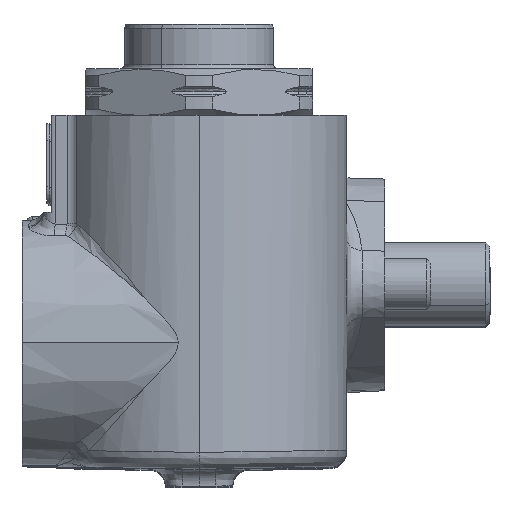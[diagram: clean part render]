
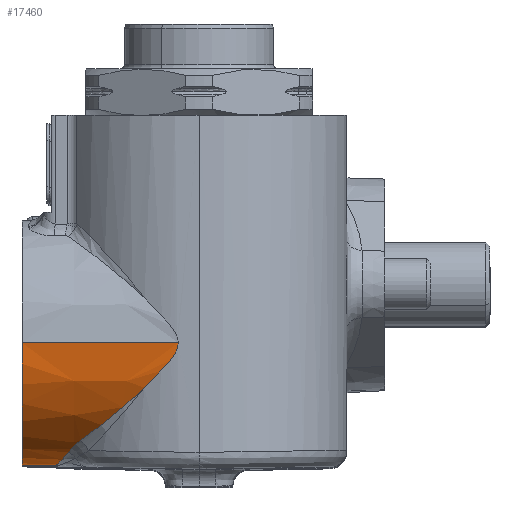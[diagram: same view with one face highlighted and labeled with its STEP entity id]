
A CAD part, top view. The second image highlights one B-rep face of the part: STEP entity #17460.
In plain terms, the highlighted conical face has half-angle 1 degrees and reference radius 14.5 mm.
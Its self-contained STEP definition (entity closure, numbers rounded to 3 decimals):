
#521 = CARTESIAN_POINT ( 'NONE',  ( -1.754, -13.532, 69.72 ) ) ;
#1226 = DIRECTION ( 'NONE',  ( -1., 0.017, 0. ) ) ;
#1581 = B_SPLINE_CURVE_WITH_KNOTS ( 'NONE', 3,
 ( #28945, #31930, #39029, #19320, #28740, #6372, #13280, #521, #26426, #10343 ),
 .UNSPECIFIED., .F., .F.,
 ( 4, 2, 2, 2, 4 ),
 ( 0., 0.003, 0.006, 0.008, 0.011 ),
 .UNSPECIFIED. ) ;
#2416 = CARTESIAN_POINT ( 'NONE',  ( 1.093, -10.752, 70.803 ) ) ;
#3167 = EDGE_CURVE ( 'NONE', #16826, #37644, #17187, .T. ) ;
#3207 = ORIENTED_EDGE ( 'NONE', *, *, #8746, .T. ) ;
#3675 = CONICAL_SURFACE ( 'NONE', #37088, 14.5, 0.017 ) ;
#4286 = EDGE_CURVE ( 'NONE', #10640, #32117, #38312, .T. ) ;
#5107 = CARTESIAN_POINT ( 'NONE',  ( -15., -7., 56.5 ) ) ;
#5164 = CARTESIAN_POINT ( 'NONE',  ( -11.01, -21.534, 57.672 ) ) ;
#5554 = CARTESIAN_POINT ( 'NONE',  ( 2.228, -9.501, 71.09 ) ) ;
#5634 = EDGE_CURVE ( 'NONE', #10640, #25502, #34749, .T. ) ;
#6051 = EDGE_CURVE ( 'NONE', #24693, #32117, #29866, .T. ) ;
#6212 = AXIS2_PLACEMENT_3D ( 'NONE', #6754, #29347, #38993 ) ;
#6372 = CARTESIAN_POINT ( 'NONE',  ( -3.695, -15.195, 68.718 ) ) ;
#6572 = CARTESIAN_POINT ( 'NONE',  ( -8.055, -18.576, 65.432 ) ) ;
#6725 = ORIENTED_EDGE ( 'NONE', *, *, #5634, .F. ) ;
#6754 = CARTESIAN_POINT ( 'NONE',  ( -15., -7., 56.5 ) ) ;
#8259 = CARTESIAN_POINT ( 'NONE',  ( 3.519, -7., 71.323 ) ) ;
#8284 = CARTESIAN_POINT ( 'NONE',  ( -11.103, -21.568, 57.088 ) ) ;
#8287 = VERTEX_POINT ( 'NONE', #17582 ) ;
#8746 = EDGE_CURVE ( 'NONE', #24693, #16826, #30238, .T. ) ;
#9698 = CARTESIAN_POINT ( 'NONE',  ( -8.672, -19.06, 64.76 ) ) ;
#10341 = ORIENTED_EDGE ( 'NONE', *, *, #4286, .T. ) ;
#10343 = CARTESIAN_POINT ( 'NONE',  ( -0.474, -12.326, 70.259 ) ) ;
#10640 = VERTEX_POINT ( 'NONE', #14819 ) ;
#11259 = CARTESIAN_POINT ( 'NONE',  ( -10.798, -21.398, 58.826 ) ) ;
#12012 = CARTESIAN_POINT ( 'NONE',  ( -9.52, -19.989, 63.157 ) ) ;
#12039 = CARTESIAN_POINT ( 'NONE',  ( 1.48, -10.346, 70.91 ) ) ;
#12238 = CARTESIAN_POINT ( 'NONE',  ( 0.313, -11.549, 70.555 ) ) ;
#12410 = DIRECTION ( 'NONE',  ( 1., 0., 0. ) ) ;
#13092 = VECTOR ( 'NONE', #1226, 1000. ) ;
#13280 = CARTESIAN_POINT ( 'NONE',  ( -3.048, -14.656, 69.076 ) ) ;
#13364 = CARTESIAN_POINT ( 'NONE',  ( -17., -21.465, 56.5 ) ) ;
#14254 = EDGE_CURVE ( 'NONE', #25502, #8287, #35556, .T. ) ;
#14707 = FACE_OUTER_BOUND ( 'NONE', #40782, .T. ) ;
#14759 = CARTESIAN_POINT ( 'NONE',  ( -10.236, -20.861, 61.068 ) ) ;
#14819 = CARTESIAN_POINT ( 'NONE',  ( -15., -7., 71. ) ) ;
#14821 = CARTESIAN_POINT ( 'NONE',  ( -11.198, -21.566, 56.5 ) ) ;
#15272 = EDGE_CURVE ( 'NONE', #37644, #8287, #1581, .T. ) ;
#15302 = CARTESIAN_POINT ( 'NONE',  ( -15., -7., 71. ) ) ;
#16826 = VERTEX_POINT ( 'NONE', #16996 ) ;
#16996 = CARTESIAN_POINT ( 'NONE',  ( -9.52, -19.989, 63.157 ) ) ;
#17025 = ORIENTED_EDGE ( 'NONE', *, *, #3167, .T. ) ;
#17119 = CARTESIAN_POINT ( 'NONE',  ( -9.704, -20.245, 62.651 ) ) ;
#17187 = B_SPLINE_CURVE_WITH_KNOTS ( 'NONE', 3,
 ( #12012, #31909, #18474, #9698, #37541, #6572 ),
 .UNSPECIFIED., .F., .F.,
 ( 4, 2, 4 ),
 ( 0., 0.002, 0.003 ),
 .UNSPECIFIED. ) ;
#17460 = ADVANCED_FACE ( 'NONE', ( #14707 ), #3675, .T. ) ;
#17582 = CARTESIAN_POINT ( 'NONE',  ( -0.474, -12.326, 70.259 ) ) ;
#17890 = CARTESIAN_POINT ( 'NONE',  ( 3.225, -8.108, 71.279 ) ) ;
#18474 = CARTESIAN_POINT ( 'NONE',  ( -9.159, -19.535, 64.002 ) ) ;
#19320 = CARTESIAN_POINT ( 'NONE',  ( -5.619, -16.739, 67.483 ) ) ;
#20846 = CARTESIAN_POINT ( 'NONE',  ( -11.198, -21.566, 56.5 ) ) ;
#21460 = CARTESIAN_POINT ( 'NONE',  ( 3.08, -8.355, 71.255 ) ) ;
#24015 = ORIENTED_EDGE ( 'NONE', *, *, #15272, .T. ) ;
#24366 = CARTESIAN_POINT ( 'NONE',  ( 2.76, -8.831, 71.198 ) ) ;
#24399 = CARTESIAN_POINT ( 'NONE',  ( -9.89, -20.47, 62.134 ) ) ;
#24693 = VERTEX_POINT ( 'NONE', #14821 ) ;
#24825 = CARTESIAN_POINT ( 'NONE',  ( -15., -21.5, 56.5 ) ) ;
#24893 = DIRECTION ( 'NONE',  ( 1., 0., 0.017 ) ) ;
#25502 = VERTEX_POINT ( 'NONE', #35185 ) ;
#26327 = CARTESIAN_POINT ( 'NONE',  ( 2.043, -9.715, 71.048 ) ) ;
#26426 = CARTESIAN_POINT ( 'NONE',  ( -1.107, -12.947, 70.006 ) ) ;
#27524 = CARTESIAN_POINT ( 'NONE',  ( -10.396, -21.028, 60.517 ) ) ;
#27916 = CARTESIAN_POINT ( 'NONE',  ( -0.474, -12.326, 70.259 ) ) ;
#28517 = DIRECTION ( 'NONE',  ( 0., 0., 1. ) ) ;
#28740 = CARTESIAN_POINT ( 'NONE',  ( -4.98, -16.236, 67.923 ) ) ;
#28945 = CARTESIAN_POINT ( 'NONE',  ( -8.055, -18.576, 65.432 ) ) ;
#29347 = DIRECTION ( 'NONE',  ( 1., 0., 0. ) ) ;
#29862 = CARTESIAN_POINT ( 'NONE',  ( -9.52, -19.989, 63.157 ) ) ;
#29866 = LINE ( 'NONE', #13364, #13092 ) ;
#30238 = B_SPLINE_CURVE_WITH_KNOTS ( 'NONE', 3,
 ( #20846, #8284, #5164, #11259, #33614, #27524, #14759, #24399, #17119, #29862 ),
 .UNSPECIFIED., .F., .F.,
 ( 4, 2, 2, 2, 4 ),
 ( 0., 0.002, 0.004, 0.005, 0.007 ),
 .UNSPECIFIED. ) ;
#31097 = VECTOR ( 'NONE', #24893, 1000. ) ;
#31909 = CARTESIAN_POINT ( 'NONE',  ( -9.36, -19.768, 63.595 ) ) ;
#31930 = CARTESIAN_POINT ( 'NONE',  ( -7.469, -18.149, 66.002 ) ) ;
#32117 = VERTEX_POINT ( 'NONE', #24825 ) ;
#33423 = CARTESIAN_POINT ( 'NONE',  ( -8.055, -18.576, 65.432 ) ) ;
#33614 = CARTESIAN_POINT ( 'NONE',  ( -10.678, -21.297, 59.395 ) ) ;
#33806 = CARTESIAN_POINT ( 'NONE',  ( 3.448, -7.576, 71.313 ) ) ;
#34749 = LINE ( 'NONE', #15302, #31097 ) ;
#35185 = CARTESIAN_POINT ( 'NONE',  ( 3.519, -7., 71.323 ) ) ;
#35556 = B_SPLINE_CURVE_WITH_KNOTS ( 'NONE', 3,
 ( #8259, #40303, #33806, #17890, #21460, #24366, #37161, #5554, #26327, #12039, #2416, #12238, #38201, #27916 ),
 .UNSPECIFIED., .F., .F.,
 ( 4, 2, 2, 2, 2, 2, 4 ),
 ( 0.023, 0.024, 0.025, 0.026, 0.026, 0.028, 0.03 ),
 .UNSPECIFIED. ) ;
#37049 = ORIENTED_EDGE ( 'NONE', *, *, #6051, .F. ) ;
#37088 = AXIS2_PLACEMENT_3D ( 'NONE', #5107, #12410, #28517 ) ;
#37161 = CARTESIAN_POINT ( 'NONE',  ( 2.586, -9.06, 71.165 ) ) ;
#37541 = CARTESIAN_POINT ( 'NONE',  ( -8.383, -18.815, 65.113 ) ) ;
#37644 = VERTEX_POINT ( 'NONE', #33423 ) ;
#38201 = CARTESIAN_POINT ( 'NONE',  ( -0.08, -11.94, 70.415 ) ) ;
#38312 = CIRCLE ( 'NONE', #6212, 14.5 ) ;
#38993 = DIRECTION ( 'NONE',  ( 0., 0., -1. ) ) ;
#39029 = CARTESIAN_POINT ( 'NONE',  ( -6.863, -17.695, 66.523 ) ) ;
#40303 = CARTESIAN_POINT ( 'NONE',  ( 3.519, -7.29, 71.323 ) ) ;
#40782 = EDGE_LOOP ( 'NONE', ( #6725, #10341, #37049, #3207, #17025, #24015, #40903 ) ) ;
#40903 = ORIENTED_EDGE ( 'NONE', *, *, #14254, .F. ) ;
